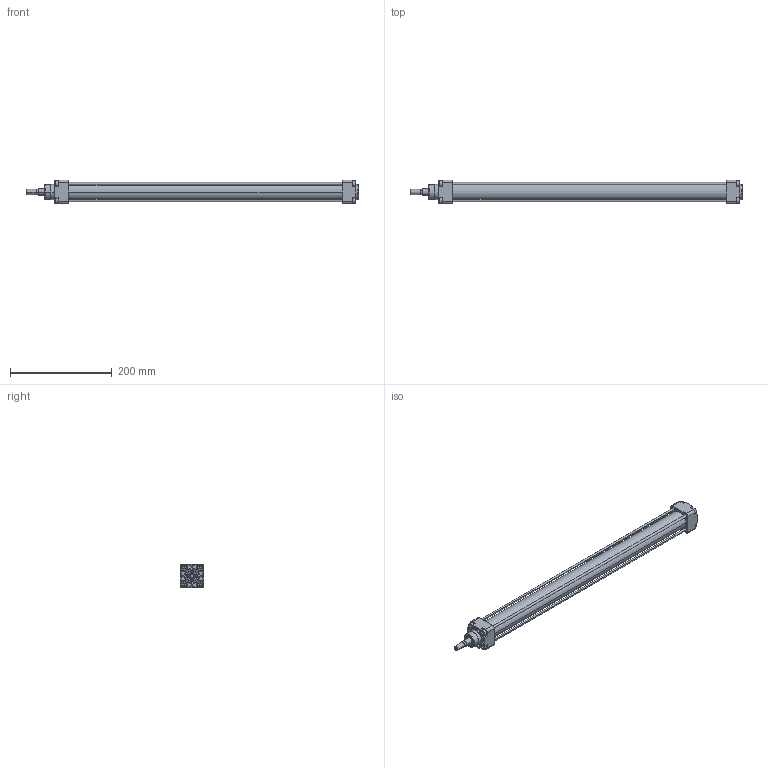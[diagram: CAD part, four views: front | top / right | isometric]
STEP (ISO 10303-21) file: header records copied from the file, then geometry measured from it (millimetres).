
FILE_DESCRIPTION(('CATIA V5 STEP Exchange'),'2;1');
FILE_NAME('D:\stp file for catalog\PNC\32\PNC 32-12-500.stp','2015-10-14T11:42:17+00:00',('none'),('none'),'Version 5-6 Release 2012','CATIA V5 STEP AP203','none');
FILE_SCHEMA(('CONFIG_CONTROL_DESIGN'));
Length unit declared in the file: millimetre
Products named in the file (1): PNC 32-12-500-00
Assembly tree (2 placements, depth 2):
  PNC 32-12-500-00
    #58
    #15737
Bounding box: 652.5 x 47 x 47 mm (x, y, z)
Volume: 362184.4 mm3; surface area: 217025.9 mm2
Topology: 6 solids, 6 shells, 587 faces, 1488 edges, 974 vertices
Faces by surface type: plane 359, cylinder 166, torus 26, cone 20, extrusion 16
Entity records: 16261 total; most frequent: CARTESIAN_POINT 3407, ORIENTED_EDGE 2976, DIRECTION 1948, EDGE_CURVE 1488, VERTEX_POINT 974, VECTOR 896, LINE 880, AXIS2_PLACEMENT_3D 773
